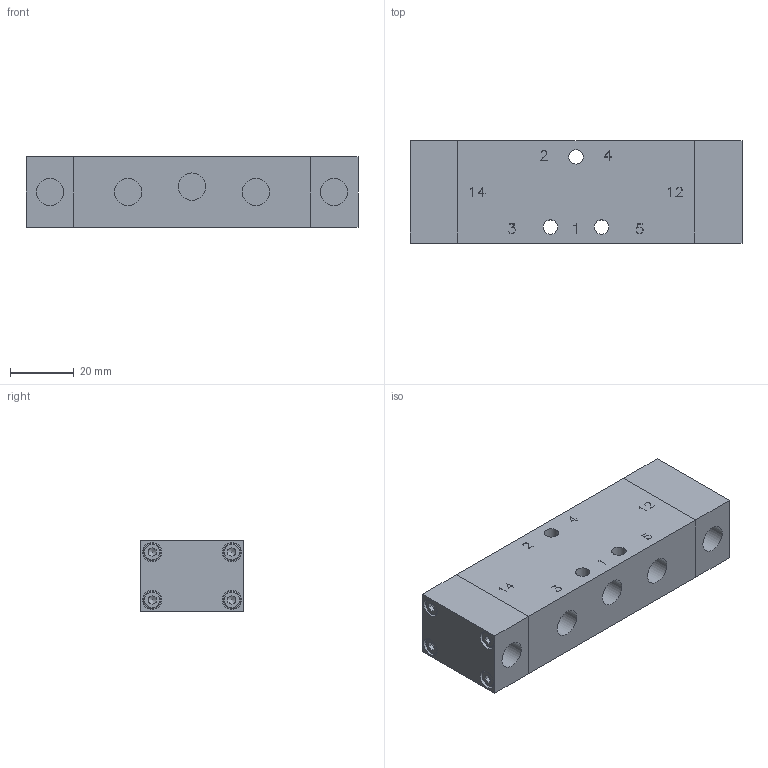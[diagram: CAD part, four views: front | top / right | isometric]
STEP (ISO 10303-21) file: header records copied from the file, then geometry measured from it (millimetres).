
FILE_DESCRIPTION (( 'STEP AP214' ), '1' );
FILE_NAME ('PKX-09-520_Airtec.step', '2019-01-07T15:54:49', ( '' ), ( '' ), 'SwSTEP 2.0', 'SolidWorks 2010', '' );
FILE_SCHEMA (( 'AUTOMOTIVE_DESIGN' ));
Length unit declared in the file: millimetre
Products named in the file (1): PKX-09-520_Airtec
Bounding box: 104 x 32 x 22 mm (x, y, z)
Volume: 68609.8 mm3; surface area: 16095.2 mm2
Topology: 1 solids, 1 shells, 495 faces, 1328 edges, 880 vertices
Faces by surface type: plane 453, cylinder 26, torus 8, cone 8
Full cylindrical faces by diameter (mm): 4.5 x3, 5.5 x8, 6 x8, 8.566 x7
Entity records: 15775 total; most frequent: CARTESIAN_POINT 2726, ORIENTED_EDGE 2540, DIRECTION 2274, EDGE_CURVE 1270, LINE 1162, VECTOR 1162, VERTEX_POINT 864, EDGE_LOOP 588
